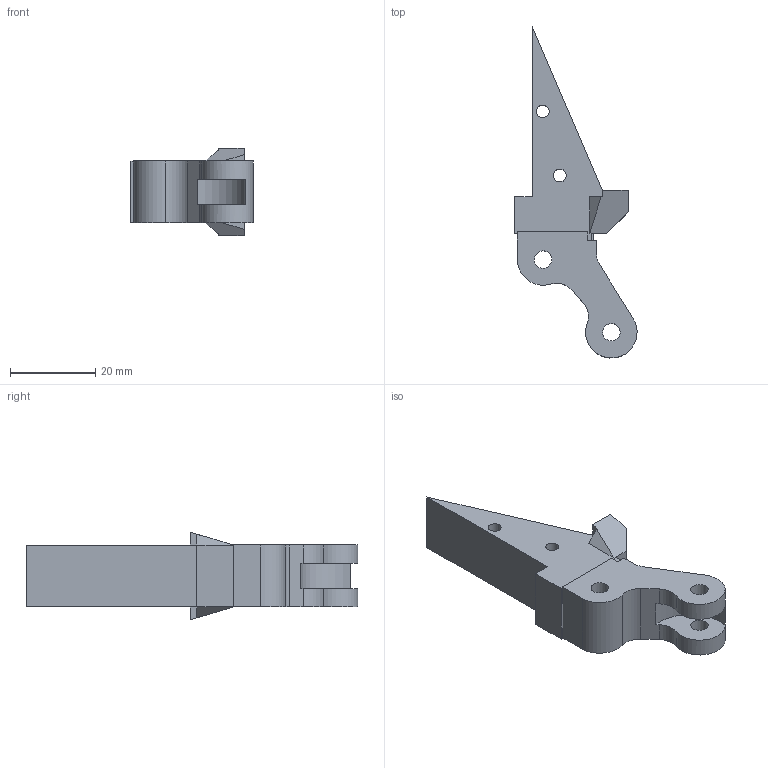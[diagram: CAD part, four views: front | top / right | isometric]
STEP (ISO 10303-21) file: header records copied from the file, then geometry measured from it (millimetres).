
FILE_DESCRIPTION (( 'STEP AP214' ), '1' );
FILE_NAME ('left-fingertip-carrier.step', '2026-11-14T03:54:23', ( '' ), ( '' ), 'SwSTEP 2.0', 'SolidWorks 2024', '' );
FILE_SCHEMA (( 'AUTOMOTIVE_DESIGN' ));
Length unit declared in the file: millimetre
Products named in the file (1): left-fingertip-carrier
Bounding box: 28.58 x 77.69 x 20.5 mm (x, y, z)
Volume: 13001.3 mm3; surface area: 5524.2 mm2
Topology: 1 solids, 1 shells, 51 faces, 140 edges, 91 vertices
Faces by surface type: plane 39, cylinder 12
Full cylindrical faces by diameter (mm): 3 x2, 4.1 x3
Entity records: 1622 total; most frequent: CARTESIAN_POINT 278, ORIENTED_EDGE 270, DIRECTION 265, EDGE_CURVE 135, VECTOR 109, LINE 109, VERTEX_POINT 91, AXIS2_PLACEMENT_3D 78
